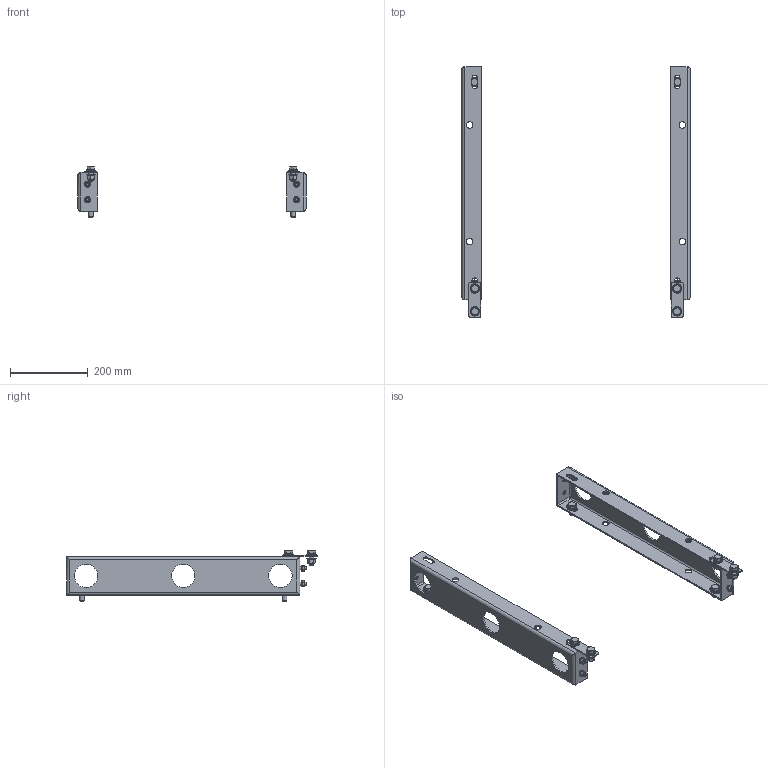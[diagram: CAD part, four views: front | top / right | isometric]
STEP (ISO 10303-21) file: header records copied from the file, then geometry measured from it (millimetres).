
FILE_DESCRIPTION(('STEP AP203'), '1');
FILE_NAME('3960 Êîìïëåêò äëÿ òðàíñïîðòèðîâêè', '', ('UNSPECIFIED'), ('UNSPECIFIED'), 'C3D Converter', 'C3D Toolkit', '');
FILE_SCHEMA(('CONFIG_CONTROL_DESIGN'));
Length unit declared in the file: millimetre
Products named in the file (12): 3960 СБ; 3961; 3962
Assembly tree (56 placements, depth 2):
  3960 СБ
    3961  x2
    3962  x2
    (unnamed)  x12
    (unnamed)  x8
    (unnamed)  x4
    (unnamed)  x4
    (unnamed)  x4
    (unnamed)  x8
    (unnamed)  x4
    (unnamed)  x4
    (unnamed)  x4
Bounding box: 587 x 645 x 131.5 mm (x, y, z)
Volume: 963202.2 mm3; surface area: 515592.2 mm2
Topology: 56 solids, 56 shells, 544 faces, 1262 edges, 856 vertices
Faces by surface type: plane 310, cylinder 158, cone 56, torus 12, sphere 8
Full cylindrical faces by diameter (mm): 6.647 x4, 8 x4, 9 x8, 10 x8, 10.106 x4, 12 x8, 13.5 x12, 14 x4, 16 x8, 17 x8, 24 x12, 60 x6
Entity records: 10175 total; most frequent: CARTESIAN_POINT 4858, DIRECTION 814, ORIENTED_EDGE 606, AXIS2_PLACEMENT_3D 337, EDGE_CURVE 303, EDGE_LOOP 236, VERTEX_POINT 217, FACE_BOUND 165
